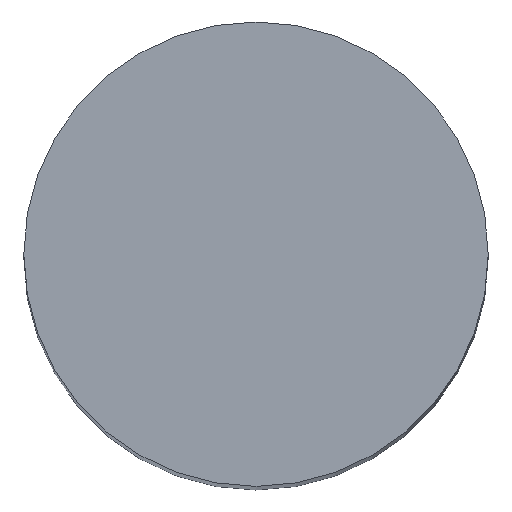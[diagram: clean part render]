
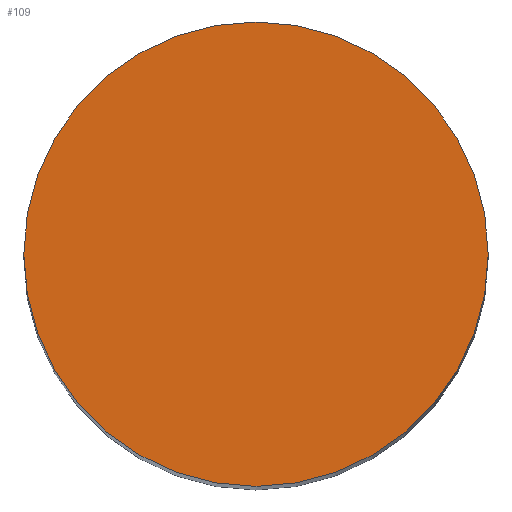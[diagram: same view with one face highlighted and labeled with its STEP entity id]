
A CAD part, top view. The second image highlights one B-rep face of the part: STEP entity #109.
In plain terms, the highlighted planar face has unit normal (0, 0, 1).
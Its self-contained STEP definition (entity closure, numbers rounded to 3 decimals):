
#24 = VERTEX_POINT('',#25);
#25 = CARTESIAN_POINT('',(10.,0.,90.));
#32 = CYLINDRICAL_SURFACE('',#33,10.);
#33 = AXIS2_PLACEMENT_3D('',#34,#35,#36);
#34 = CARTESIAN_POINT('',(0.,0.,0.));
#35 = DIRECTION('',(-0.,-0.,-1.));
#36 = DIRECTION('',(1.,0.,-0.));
#51 = EDGE_CURVE('',#24,#24,#52,.T.);
#52 = SURFACE_CURVE('',#53,(#58,#65),.PCURVE_S1.);
#53 = CIRCLE('',#54,10.);
#54 = AXIS2_PLACEMENT_3D('',#55,#56,#57);
#55 = CARTESIAN_POINT('',(0.,0.,90.));
#56 = DIRECTION('',(0.,0.,1.));
#57 = DIRECTION('',(1.,0.,-0.));
#58 = PCURVE('',#32,#59);
#59 = DEFINITIONAL_REPRESENTATION('',(#60),#64);
#60 = LINE('',#61,#62);
#61 = CARTESIAN_POINT('',(-0.,-90.));
#62 = VECTOR('',#63,1.);
#63 = DIRECTION('',(-1.,0.));
#64 = ( GEOMETRIC_REPRESENTATION_CONTEXT(2) 
PARAMETRIC_REPRESENTATION_CONTEXT() REPRESENTATION_CONTEXT('2D SPACE',''
  ) );
#65 = PCURVE('',#66,#71);
#66 = PLANE('',#67);
#67 = AXIS2_PLACEMENT_3D('',#68,#69,#70);
#68 = CARTESIAN_POINT('',(0.,0.,90.));
#69 = DIRECTION('',(0.,0.,1.));
#70 = DIRECTION('',(1.,0.,-0.));
#71 = DEFINITIONAL_REPRESENTATION('',(#72),#76);
#72 = CIRCLE('',#73,10.);
#73 = AXIS2_PLACEMENT_2D('',#74,#75);
#74 = CARTESIAN_POINT('',(0.,0.));
#75 = DIRECTION('',(1.,0.));
#76 = ( GEOMETRIC_REPRESENTATION_CONTEXT(2) 
PARAMETRIC_REPRESENTATION_CONTEXT() REPRESENTATION_CONTEXT('2D SPACE',''
  ) );
#109 = ADVANCED_FACE('',(#110),#66,.T.);
#110 = FACE_BOUND('',#111,.T.);
#111 = EDGE_LOOP('',(#112));
#112 = ORIENTED_EDGE('',*,*,#51,.T.);
